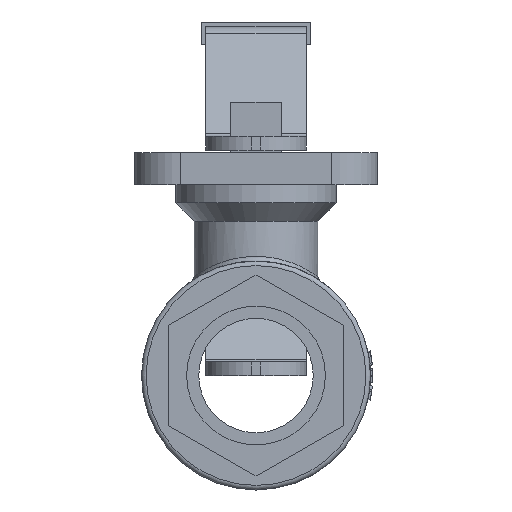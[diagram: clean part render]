
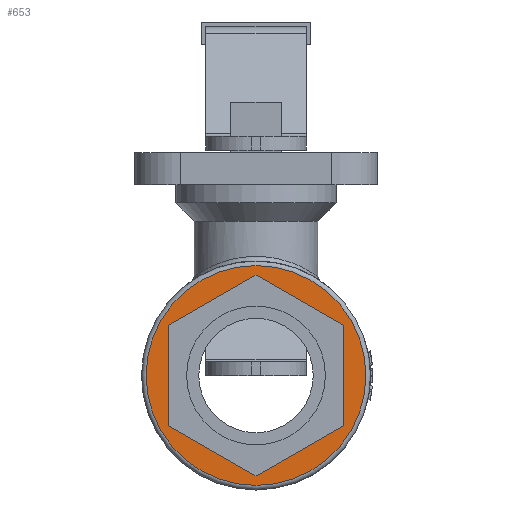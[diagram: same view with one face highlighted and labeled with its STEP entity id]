
A CAD part, left-side view. The second image highlights one B-rep face of the part: STEP entity #653.
In plain terms, the highlighted planar face has unit normal (-1, 0, 0).
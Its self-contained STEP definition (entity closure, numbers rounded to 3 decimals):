
#653 = ADVANCED_FACE( '', ( #1349, #1350 ), #1351, .T. );
#1349 = FACE_OUTER_BOUND( '', #3960, .T. );
#1350 = FACE_BOUND( '', #3961, .T. );
#1351 = PLANE( '', #3962 );
#3960 = EDGE_LOOP( '', ( #5651 ) );
#3961 = EDGE_LOOP( '', ( #5652, #5653, #5654, #5655, #5656, #5657 ) );
#3962 = AXIS2_PLACEMENT_3D( '', #5658, #5659, #5660 );
#5651 = ORIENTED_EDGE( '', *, *, #6334, .T. );
#5652 = ORIENTED_EDGE( '', *, *, #6365, .F. );
#5653 = ORIENTED_EDGE( '', *, *, #6252, .F. );
#5654 = ORIENTED_EDGE( '', *, *, #6375, .F. );
#5655 = ORIENTED_EDGE( '', *, *, #6278, .F. );
#5656 = ORIENTED_EDGE( '', *, *, #6382, .F. );
#5657 = ORIENTED_EDGE( '', *, *, #6188, .F. );
#5658 = CARTESIAN_POINT( '', ( -25.35, 4.75, 8.227 ) );
#5659 = DIRECTION( '', ( -1., 0., 0. ) );
#5660 = DIRECTION( '', ( 0., -1., 0. ) );
#6188 = EDGE_CURVE( '', #7187, #7189, #7190, .T. );
#6252 = EDGE_CURVE( '', #7272, #7274, #7275, .T. );
#6278 = EDGE_CURVE( '', #7306, #7308, #7309, .T. );
#6334 = EDGE_CURVE( '', #7376, #7376, #7377, .T. );
#6365 = EDGE_CURVE( '', #7274, #7187, #7411, .T. );
#6375 = EDGE_CURVE( '', #7308, #7272, #7421, .T. );
#6382 = EDGE_CURVE( '', #7189, #7306, #7428, .T. );
#7187 = VERTEX_POINT( '', #10074 );
#7189 = VERTEX_POINT( '', #10077 );
#7190 = LINE( '', #10078, #10079 );
#7272 = VERTEX_POINT( '', #10393 );
#7274 = VERTEX_POINT( '', #10396 );
#7275 = LINE( '', #10397, #10398 );
#7306 = VERTEX_POINT( '', #10813 );
#7308 = VERTEX_POINT( '', #10816 );
#7309 = LINE( '', #10817, #10818 );
#7376 = VERTEX_POINT( '', #11130 );
#7377 = CIRCLE( '', #11131, 24. );
#7411 = LINE( '', #11175, #11176 );
#7421 = LINE( '', #11187, #11188 );
#7428 = LINE( '', #11195, #11196 );
#10074 = CARTESIAN_POINT( '', ( -25.35, 0., 21.939 ) );
#10077 = CARTESIAN_POINT( '', ( -25.35, 19., 10.97 ) );
#10078 = CARTESIAN_POINT( '', ( -25.35, 0., 21.939 ) );
#10079 = VECTOR( '', #11458, 1000. );
#10393 = CARTESIAN_POINT( '', ( -25.35, -19., -10.97 ) );
#10396 = CARTESIAN_POINT( '', ( -25.35, -19., 10.97 ) );
#10397 = CARTESIAN_POINT( '', ( -25.35, -19., -10.97 ) );
#10398 = VECTOR( '', #11483, 1000. );
#10813 = CARTESIAN_POINT( '', ( -25.35, 19., -10.97 ) );
#10816 = CARTESIAN_POINT( '', ( -25.35, 0., -21.939 ) );
#10817 = CARTESIAN_POINT( '', ( -25.35, 19., -10.97 ) );
#10818 = VECTOR( '', #11488, 1000. );
#11130 = CARTESIAN_POINT( '', ( -25.35, -24., 0. ) );
#11131 = AXIS2_PLACEMENT_3D( '', #11493, #11494, #11495 );
#11175 = CARTESIAN_POINT( '', ( -25.35, -19., 10.97 ) );
#11176 = VECTOR( '', #11509, 1000. );
#11187 = CARTESIAN_POINT( '', ( -25.35, 0., -21.939 ) );
#11188 = VECTOR( '', #11510, 1000. );
#11195 = CARTESIAN_POINT( '', ( -25.35, 19., 10.97 ) );
#11196 = VECTOR( '', #11511, 1000. );
#11458 = DIRECTION( '', ( 0., 0.866, -0.5 ) );
#11483 = DIRECTION( '', ( 0., 0., 1. ) );
#11488 = DIRECTION( '', ( 0., -0.866, -0.5 ) );
#11493 = CARTESIAN_POINT( '', ( -25.35, 0., 0. ) );
#11494 = DIRECTION( '', ( -1., 0., 0. ) );
#11495 = DIRECTION( '', ( 0., -1., 0. ) );
#11509 = DIRECTION( '', ( 0., 0.866, 0.5 ) );
#11510 = DIRECTION( '', ( 0., -0.866, 0.5 ) );
#11511 = DIRECTION( '', ( 0., 0., -1. ) );
